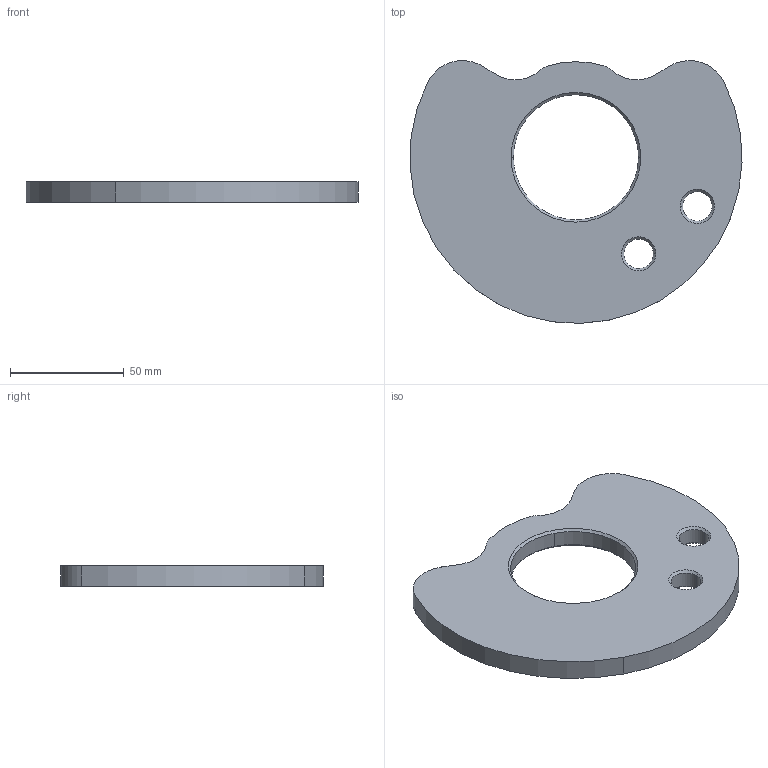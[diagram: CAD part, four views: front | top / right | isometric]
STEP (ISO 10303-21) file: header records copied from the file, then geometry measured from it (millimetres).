
FILE_DESCRIPTION (( 'STEP AP203' ), '1' );
FILE_NAME ('YYDK-500-0016 肣埴攫(500T).STEP', '2026-03-14T06:22:51', ( 'Windows 蚚誧' ), ( '' ), 'SwSTEP 2.0', 'SolidWorks 2020', '' );
FILE_SCHEMA (( 'CONFIG_CONTROL_DESIGN' ));
Length unit declared in the file: millimetre
Products named in the file (1): YYDK-500-0016 肣埴攫(500T)
Bounding box: 145.87 x 115.46 x 9 mm (x, y, z)
Volume: 99922.8 mm3; surface area: 28248 mm2
Topology: 1 solids, 1 shells, 34 faces, 88 edges, 56 vertices
Faces by surface type: cylinder 18, cone 12, plane 4
Entity records: 1149 total; most frequent: DIRECTION 210, CARTESIAN_POINT 179, ORIENTED_EDGE 176, EDGE_CURVE 88, AXIS2_PLACEMENT_3D 87, VERTEX_POINT 56, CIRCLE 52, EDGE_LOOP 40
